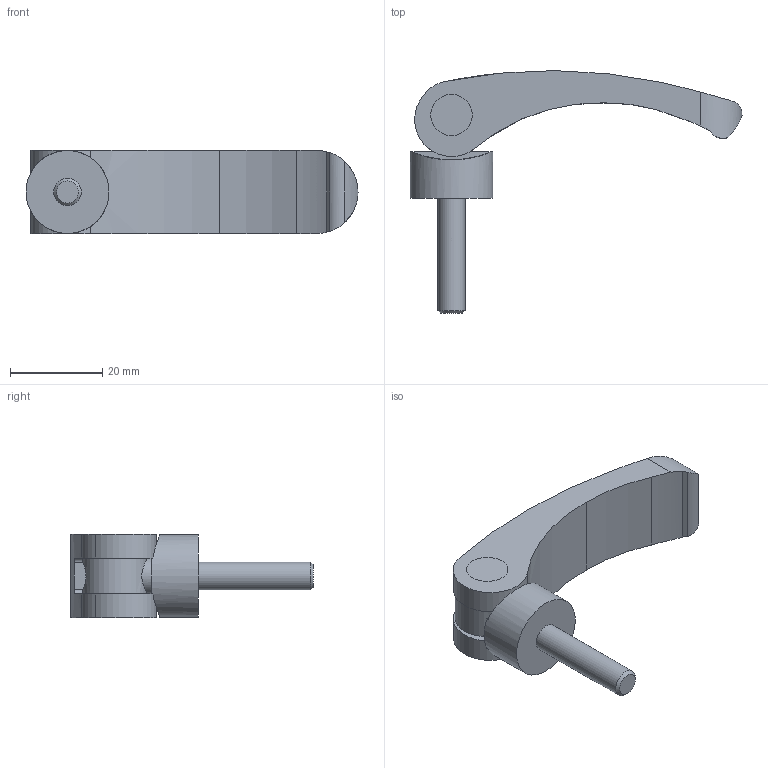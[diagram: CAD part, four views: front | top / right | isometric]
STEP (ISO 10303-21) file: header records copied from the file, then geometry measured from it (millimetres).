
FILE_DESCRIPTION(/* description */ ('CLAMPING LEVER M6x25'),/* implementation_level */ '2;1');
FILE_NAME(/* name */ '\\carryline.intra\privat\users\mathias\Desktop\Tillfälliga filer\300-3310.stp',/* time_stamp */ '2018-11-30T09:58:54+01:00',/* author */ ('MD'),/* organization */ ('CARRYLINE'),/* preprocessor_version */ 'ST-DEVELOPER v17',/* originating_system */ 'Autodesk Inventor 2018',/* authorisation */ '');
FILE_SCHEMA (('AUTOMOTIVE_DESIGN { 1 0 10303 214 3 1 1 }'));
Length unit declared in the file: millimetre
Products named in the file (1): 300-3310
Bounding box: 72 x 52.63 x 18 mm (x, y, z)
Volume: 13587.2 mm3; surface area: 7191.7 mm2
Topology: 2 solids, 2 shells, 50 faces, 125 edges, 85 vertices
Faces by surface type: cylinder 32, plane 17, cone 1
Full cylindrical faces by diameter (mm): 4.917 x1, 6 x1, 6.1 x2, 7.8 x1, 9 x4, 14 x1, 18 x1
Entity records: 1919 total; most frequent: CARTESIAN_POINT 610, ORIENTED_EDGE 250, DIRECTION 249, EDGE_CURVE 125, AXIS2_PLACEMENT_3D 104, VERTEX_POINT 85, EDGE_LOOP 60, STYLED_ITEM 52
